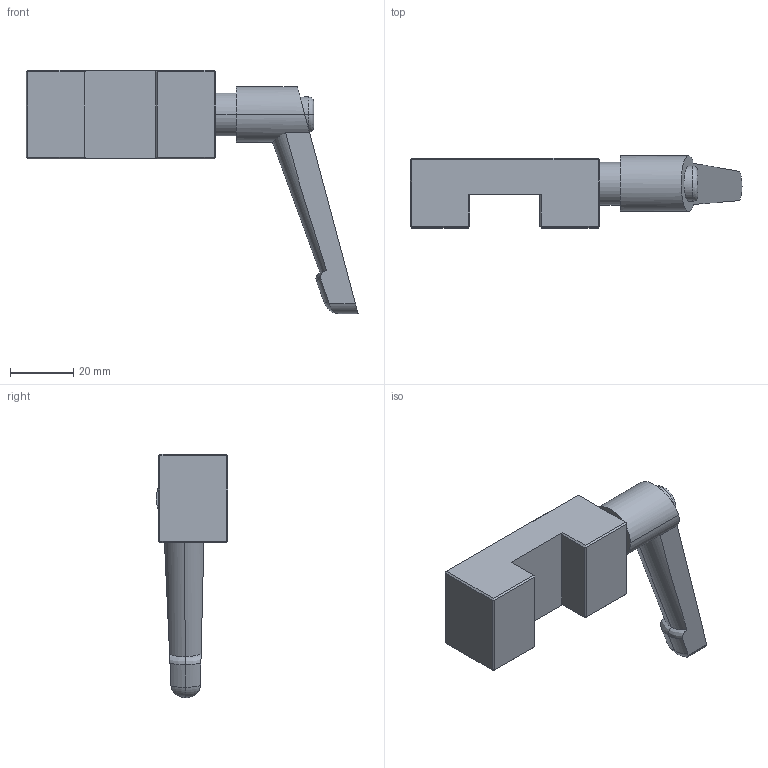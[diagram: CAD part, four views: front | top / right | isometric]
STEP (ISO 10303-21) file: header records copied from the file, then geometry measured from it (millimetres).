
FILE_DESCRIPTION (( 'STEP AP214' ), '1' );
FILE_NAME ('2.9043 Lukitusyksikkö 20 Musta.STEP', '2025-01-10T12:23:03', ( '' ), ( '' ), 'SwSTEP 2.0', 'SolidWorks 2024', '' );
FILE_SCHEMA (( 'AUTOMOTIVE_DESIGN' ));
Length unit declared in the file: millimetre
Products named in the file (1): 2.9043 Lukitusyksikkö 20 Musta
Bounding box: 105 x 22.75 x 77 mm (x, y, z)
Surface area: 11701.2 mm2 (no closed solid volume)
Topology: 0 solids, 2 shells, 99 faces, 241 edges, 145 vertices
Faces by surface type: plane 47, cylinder 37, cone 9, bspline 4, torus 2
Entity records: 4223 total; most frequent: CARTESIAN_POINT 963, ORIENTED_EDGE 463, DIRECTION 406, EDGE_CURVE 239, VERTEX_POINT 145, AXIS2_PLACEMENT_3D 140, VECTOR 126, LINE 126
